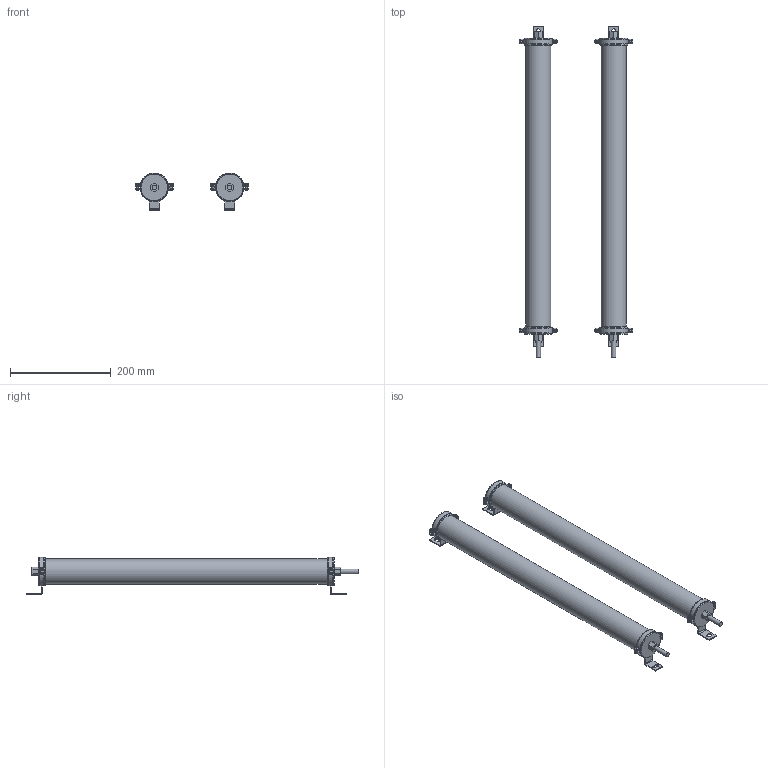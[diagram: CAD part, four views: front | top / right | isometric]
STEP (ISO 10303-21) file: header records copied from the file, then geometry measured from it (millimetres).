
FILE_DESCRIPTION( ( 'STEP AP203' ), '1' );
FILE_NAME( '//expscmdclustefs.cadenas.external/client_exchange/iodir/jobs/output/wkb80972824_no0/STEP/OY443S_2_03.stp', ' ', ( ' ' ), ( ' ' ), 'PSStep 15.0.47', 'PARTsolutions', ' ' );
FILE_SCHEMA( ( 'CONFIG_CONTROL_DESIGN' ) );
Length unit declared in the file: millimetre
Products named in the file (2): OY443S; _OY403SP1
Assembly tree (2 placements, depth 2):
  OY443S
    _OY403SP1  x2
Bounding box: 226 x 660.65 x 74.9 mm (x, y, z)
Volume: 2367201.4 mm3; surface area: 221016.1 mm2
Topology: 2 solids, 2 shells, 394 faces, 978 edges, 650 vertices
Faces by surface type: plane 230, cylinder 140, torus 16, cone 8
Full cylindrical faces by diameter (mm): 4.75 x24, 9 x4, 9.5 x8, 12.08 x2, 50 x2, 53 x4, 56 x8
Entity records: 5677 total; most frequent: DIRECTION 1000, CARTESIAN_POINT 948, ORIENTED_EDGE 872, EDGE_CURVE 436, AXIS2_PLACEMENT_3D 364, VERTEX_POINT 312, EDGE_LOOP 280, LINE 272
